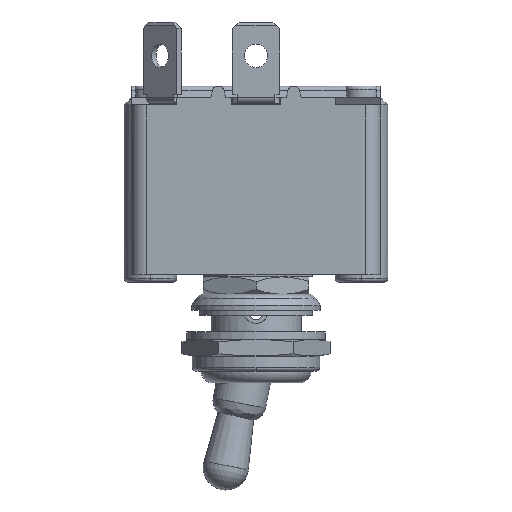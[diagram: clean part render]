
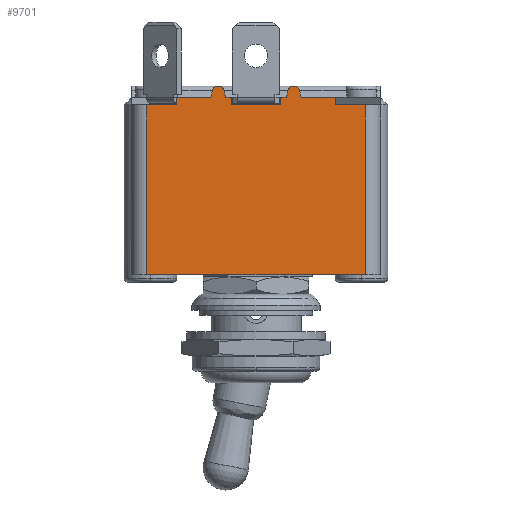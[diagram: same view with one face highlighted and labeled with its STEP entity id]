
A CAD part, front view. The second image highlights one B-rep face of the part: STEP entity #9701.
In plain terms, the highlighted planar face has unit normal (0, -1, 0).
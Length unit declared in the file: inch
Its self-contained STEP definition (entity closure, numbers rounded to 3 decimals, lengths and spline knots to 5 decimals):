
#2355=DIRECTION('',(1.,0.,0.));
#2356=VECTOR('',#2355,1.14173);
#2357=CARTESIAN_POINT('',(-0.57087,-0.42323,
-0.9252));
#2358=LINE('',#2357,#2356);
#2395=DIRECTION('',(0.,0.,1.));
#2396=VECTOR('',#2395,0.88583);
#2397=CARTESIAN_POINT('',(0.57087,-0.42323,
-0.9252));
#2398=LINE('',#2397,#2396);
#2893=DIRECTION('',(-1.,0.,0.));
#2894=VECTOR('',#2893,0.15536);
#2895=CARTESIAN_POINT('',(-0.4155,-0.42323,
-0.03937));
#2896=LINE('',#2895,#2894);
#2897=DIRECTION('',(0.,0.,1.));
#2898=VECTOR('',#2897,0.03937);
#2899=CARTESIAN_POINT('',(-0.4155,-0.42323,
-0.03937));
#2900=LINE('',#2899,#2898);
#2901=DIRECTION('',(0.243,0.,0.97));
#2902=VECTOR('',#2901,0.0363);
#2903=CARTESIAN_POINT('',(-0.23622,-0.42323,0.));
#2904=LINE('',#2903,#2902);
#2905=CARTESIAN_POINT('',(-0.19685,-0.42323,
0.02756));
#2906=DIRECTION('',(0.,1.,0.));
#2907=DIRECTION('',(-0.97,0.,0.243));
#2908=AXIS2_PLACEMENT_3D('',#2905,#2906,#2907);
#2910=DIRECTION('',(0.243,0.,-0.97));
#2911=VECTOR('',#2910,0.0363);
#2912=CARTESIAN_POINT('',(-0.1663,-0.42323,
0.03521));
#2913=LINE('',#2912,#2911);
#2914=DIRECTION('',(0.,0.,1.));
#2915=VECTOR('',#2914,0.03937);
#2916=CARTESIAN_POINT('',(-0.12795,-0.42323,
-0.03937));
#2917=LINE('',#2916,#2915);
#2918=DIRECTION('',(-1.,0.,0.));
#2919=VECTOR('',#2918,0.25591);
#2920=CARTESIAN_POINT('',(0.12795,-0.42323,
-0.03937));
#2921=LINE('',#2920,#2919);
#2922=DIRECTION('',(0.,0.,1.));
#2923=VECTOR('',#2922,0.03937);
#2924=CARTESIAN_POINT('',(0.12795,-0.42323,
-0.03937));
#2925=LINE('',#2924,#2923);
#2926=DIRECTION('',(0.243,0.,0.97));
#2927=VECTOR('',#2926,0.0363);
#2928=CARTESIAN_POINT('',(0.15748,-0.42323,0.));
#2929=LINE('',#2928,#2927);
#2930=CARTESIAN_POINT('',(0.19685,-0.42323,
0.02756));
#2931=DIRECTION('',(0.,1.,0.));
#2932=DIRECTION('',(-0.97,0.,0.243));
#2933=AXIS2_PLACEMENT_3D('',#2930,#2931,#2932);
#2935=DIRECTION('',(0.243,0.,-0.97));
#2936=VECTOR('',#2935,0.0363);
#2937=CARTESIAN_POINT('',(0.2274,-0.42323,
0.03521));
#2938=LINE('',#2937,#2936);
#2939=DIRECTION('',(0.,0.,1.));
#2940=VECTOR('',#2939,0.03937);
#2941=CARTESIAN_POINT('',(0.4155,-0.42323,
-0.03937));
#2942=LINE('',#2941,#2940);
#2943=DIRECTION('',(-1.,0.,0.));
#2944=VECTOR('',#2943,0.15536);
#2945=CARTESIAN_POINT('',(0.57087,-0.42323,
-0.03937));
#2946=LINE('',#2945,#2944);
#2947=DIRECTION('',(0.,0.,-1.));
#2948=VECTOR('',#2947,0.88583);
#2949=CARTESIAN_POINT('',(-0.57087,-0.42323,
-0.03937));
#2950=LINE('',#2949,#2948);
#3735=DIRECTION('',(-1.,0.,0.));
#3736=VECTOR('',#3735,0.17928);
#3737=CARTESIAN_POINT('',(0.4155,-0.42323,0.));
#3738=LINE('',#3737,#3736);
#4247=DIRECTION('',(-1.,0.,0.));
#4248=VECTOR('',#4247,0.17928);
#4249=CARTESIAN_POINT('',(-0.23622,-0.42323,0.));
#4250=LINE('',#4249,#4248);
#4310=DIRECTION('',(-1.,0.,0.));
#4311=VECTOR('',#4310,0.02953);
#4312=CARTESIAN_POINT('',(-0.12795,-0.42323,0.));
#4313=LINE('',#4312,#4311);
#4354=DIRECTION('',(-1.,0.,0.));
#4355=VECTOR('',#4354,0.02953);
#4356=CARTESIAN_POINT('',(0.15748,-0.42323,0.));
#4357=LINE('',#4356,#4355);
#5537=CARTESIAN_POINT('',(0.1663,-0.42323,
0.03521));
#5538=CARTESIAN_POINT('',(0.2274,-0.42323,
0.03521));
#5539=VERTEX_POINT('',#5537);
#5540=VERTEX_POINT('',#5538);
#5541=CARTESIAN_POINT('',(-0.2274,-0.42323,
0.03521));
#5542=CARTESIAN_POINT('',(-0.1663,-0.42323,
0.03521));
#5543=VERTEX_POINT('',#5541);
#5544=VERTEX_POINT('',#5542);
#5554=CARTESIAN_POINT('',(0.15748,-0.42323,0.));
#5556=VERTEX_POINT('',#5554);
#5558=CARTESIAN_POINT('',(-0.15748,-0.42323,0.));
#5560=VERTEX_POINT('',#5558);
#5591=CARTESIAN_POINT('',(0.23622,-0.42323,0.));
#5592=VERTEX_POINT('',#5591);
#5593=CARTESIAN_POINT('',(-0.23622,-0.42323,0.));
#5594=VERTEX_POINT('',#5593);
#5679=CARTESIAN_POINT('',(0.12795,-0.42323,0.));
#5681=VERTEX_POINT('',#5679);
#5685=CARTESIAN_POINT('',(-0.12795,-0.42323,0.));
#5686=VERTEX_POINT('',#5685);
#5691=CARTESIAN_POINT('',(0.4155,-0.42323,0.));
#5692=VERTEX_POINT('',#5691);
#5707=CARTESIAN_POINT('',(-0.4155,-0.42323,0.));
#5709=VERTEX_POINT('',#5707);
#5747=CARTESIAN_POINT('',(0.12795,-0.42323,
-0.03937));
#5748=CARTESIAN_POINT('',(-0.12795,-0.42323,
-0.03937));
#5749=VERTEX_POINT('',#5747);
#5750=VERTEX_POINT('',#5748);
#5751=CARTESIAN_POINT('',(0.4155,-0.42323,
-0.03937));
#5752=VERTEX_POINT('',#5751);
#5753=CARTESIAN_POINT('',(-0.4155,-0.42323,
-0.03937));
#5754=VERTEX_POINT('',#5753);
#5771=CARTESIAN_POINT('',(0.57087,-0.42323,
-0.03937));
#5773=VERTEX_POINT('',#5771);
#5780=CARTESIAN_POINT('',(-0.57087,-0.42323,
-0.03937));
#5782=VERTEX_POINT('',#5780);
#5856=CARTESIAN_POINT('',(0.57087,-0.42323,
-0.9252));
#5858=VERTEX_POINT('',#5856);
#5867=CARTESIAN_POINT('',(-0.57087,-0.42323,
-0.9252));
#5869=VERTEX_POINT('',#5867);
#9657=CARTESIAN_POINT('',(0.64961,-0.42323,0.));
#9658=DIRECTION('',(0.,-1.,0.));
#9659=DIRECTION('',(-1.,0.,0.));
#9660=AXIS2_PLACEMENT_3D('',#9657,#9658,#9659);
#9661=PLANE('',#9660);
#9662=ORIENTED_EDGE('',*,*,#9046,.F.);
#9663=ORIENTED_EDGE('',*,*,#9016,.F.);
#9665=ORIENTED_EDGE('',*,*,#9664,.F.);
#9667=ORIENTED_EDGE('',*,*,#9666,.F.);
#9669=ORIENTED_EDGE('',*,*,#9668,.T.);
#9671=ORIENTED_EDGE('',*,*,#9670,.F.);
#9673=ORIENTED_EDGE('',*,*,#9672,.T.);
#9675=ORIENTED_EDGE('',*,*,#9674,.T.);
#9677=ORIENTED_EDGE('',*,*,#9676,.T.);
#9679=ORIENTED_EDGE('',*,*,#9678,.F.);
#9681=ORIENTED_EDGE('',*,*,#9680,.F.);
#9683=ORIENTED_EDGE('',*,*,#9682,.F.);
#9685=ORIENTED_EDGE('',*,*,#9684,.T.);
#9687=ORIENTED_EDGE('',*,*,#9686,.F.);
#9689=ORIENTED_EDGE('',*,*,#9688,.T.);
#9691=ORIENTED_EDGE('',*,*,#9690,.T.);
#9693=ORIENTED_EDGE('',*,*,#9692,.T.);
#9695=ORIENTED_EDGE('',*,*,#9694,.F.);
#9697=ORIENTED_EDGE('',*,*,#9696,.F.);
#9698=ORIENTED_EDGE('',*,*,#9641,.F.);
#9699=EDGE_LOOP('',(#9662,#9663,#9665,#9667,#9669,#9671,#9673,#9675,#9677,#9679,
#9681,#9683,#9685,#9687,#9689,#9691,#9693,#9695,#9697,#9698));
#9700=FACE_OUTER_BOUND('',#9699,.F.);
#9701=ADVANCED_FACE('',(#9700),#9661,.T.);
#2909=CIRCLE('',#2908,0.0315);
#2934=CIRCLE('',#2933,0.0315);
#9016=EDGE_CURVE('',#5869,#5858,#2358,.T.);
#9046=EDGE_CURVE('',#5858,#5773,#2398,.T.);
#9641=EDGE_CURVE('',#5773,#5752,#2946,.T.);
#9664=EDGE_CURVE('',#5782,#5869,#2950,.T.);
#9666=EDGE_CURVE('',#5754,#5782,#2896,.T.);
#9668=EDGE_CURVE('',#5754,#5709,#2900,.T.);
#9670=EDGE_CURVE('',#5594,#5709,#4250,.T.);
#9672=EDGE_CURVE('',#5594,#5543,#2904,.T.);
#9674=EDGE_CURVE('',#5543,#5544,#2909,.T.);
#9676=EDGE_CURVE('',#5544,#5560,#2913,.T.);
#9678=EDGE_CURVE('',#5686,#5560,#4313,.T.);
#9680=EDGE_CURVE('',#5750,#5686,#2917,.T.);
#9682=EDGE_CURVE('',#5749,#5750,#2921,.T.);
#9684=EDGE_CURVE('',#5749,#5681,#2925,.T.);
#9686=EDGE_CURVE('',#5556,#5681,#4357,.T.);
#9688=EDGE_CURVE('',#5556,#5539,#2929,.T.);
#9690=EDGE_CURVE('',#5539,#5540,#2934,.T.);
#9692=EDGE_CURVE('',#5540,#5592,#2938,.T.);
#9694=EDGE_CURVE('',#5692,#5592,#3738,.T.);
#9696=EDGE_CURVE('',#5752,#5692,#2942,.T.);
